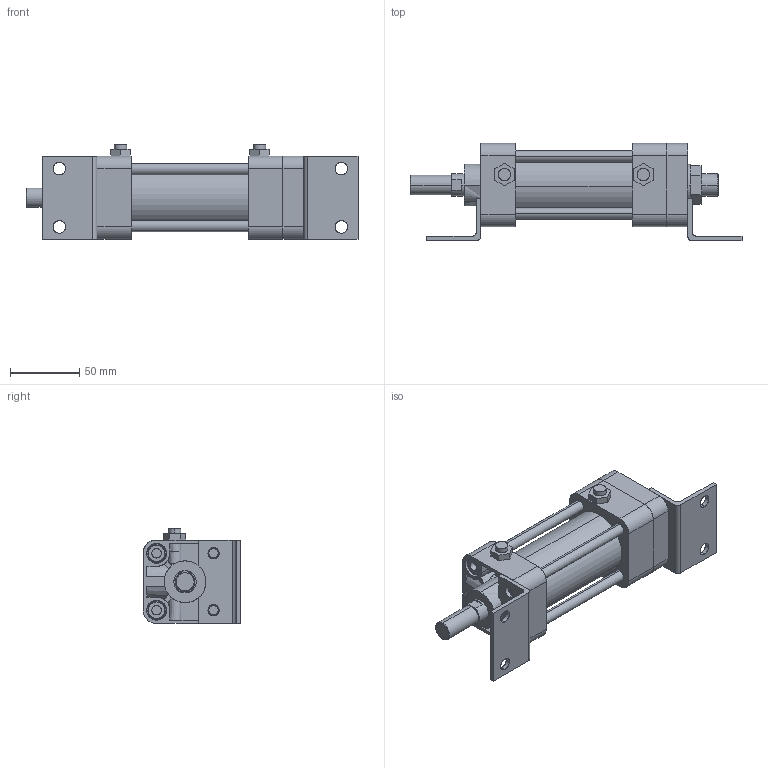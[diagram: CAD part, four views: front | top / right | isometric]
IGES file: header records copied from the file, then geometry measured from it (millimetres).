
Start section: SolidWorks IGES file using analytic representation for surfaces
Global section: file name: C:\Users\Toshiba\Desktop\KGA2-40#-50-L.IGS; native system: SolidWorks 2014; preprocessor: SolidWorks 2014; author: Toshiba; date: 160414.151146; units: millimetre
Bounding box: 239 x 70 x 68.3 mm (x, y, z)
Surface area: 113855.2 mm2 (no closed solid volume)
Topology: 0 solids, 0 shells, 438 faces, 6783 edges, 6749 vertices
Faces by surface type: revolution 226, bspline 212
